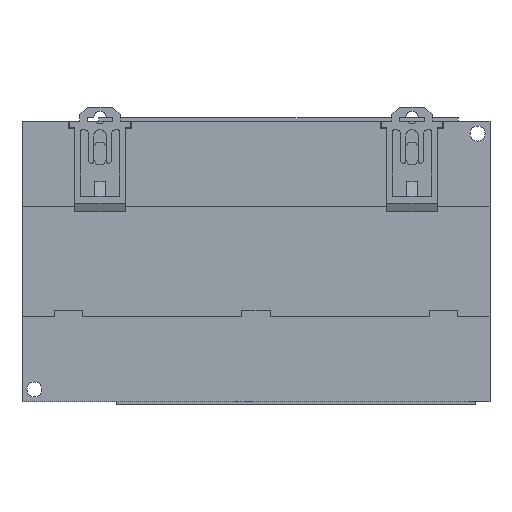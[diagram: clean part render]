
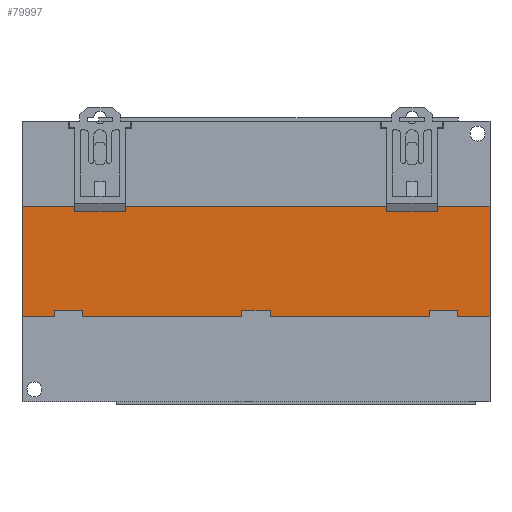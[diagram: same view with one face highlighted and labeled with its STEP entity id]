
A CAD part, front view. The second image highlights one B-rep face of the part: STEP entity #79997.
In plain terms, the highlighted planar face has unit normal (0, -1, 0).
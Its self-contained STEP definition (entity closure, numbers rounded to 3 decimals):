
#69378 = VECTOR ( 'NONE', #69559, 1000. ) ;
#69425 = CARTESIAN_POINT ( 'NONE',  ( 75., -47.3, -17.7 ) ) ;
#69489 = LINE ( 'NONE', #69561, #69378 ) ;
#69559 = DIRECTION ( 'NONE',  ( 0., 0., 1. ) ) ;
#69561 = CARTESIAN_POINT ( 'NONE',  ( 75., -47.3, 17.7 ) ) ;
#69577 = CARTESIAN_POINT ( 'NONE',  ( 75., -47.3, 17.7 ) ) ;
#69936 = CARTESIAN_POINT ( 'NONE',  ( -75., -47.3, -17.7 ) ) ;
#69942 = AXIS2_PLACEMENT_3D ( 'NONE', #69965, #70017, #70015 ) ;
#69965 = CARTESIAN_POINT ( 'NONE',  ( -75., -47.3, 17.7 ) ) ;
#70005 = DIRECTION ( 'NONE',  ( 1., 0., 0. ) ) ;
#70006 = VECTOR ( 'NONE', #70005, 1000. ) ;
#70012 = CARTESIAN_POINT ( 'NONE',  ( -75., -47.3, -17.7 ) ) ;
#70013 = LINE ( 'NONE', #70012, #70123 ) ;
#70015 = DIRECTION ( 'NONE',  ( 0., 0., 1. ) ) ;
#70017 = DIRECTION ( 'NONE',  ( 0., 1., 0. ) ) ;
#70056 = PLANE ( 'NONE',  #69942 ) ;
#70058 = CARTESIAN_POINT ( 'NONE',  ( 40.1, -47.3, 17.7 ) ) ;
#70059 = LINE ( 'NONE', #70058, #70006 ) ;
#70064 = FACE_OUTER_BOUND ( 'NONE', #80021, .T. ) ;
#70101 = CARTESIAN_POINT ( 'NONE',  ( -75., -47.3, 17.7 ) ) ;
#70122 = DIRECTION ( 'NONE',  ( 1., 0., 0. ) ) ;
#70123 = VECTOR ( 'NONE', #70122, 1000. ) ;
#70128 = DIRECTION ( 'NONE',  ( 0., 0., 1. ) ) ;
#70130 = VECTOR ( 'NONE', #70128, 1000. ) ;
#70131 = CARTESIAN_POINT ( 'NONE',  ( -75., -47.3, 17.7 ) ) ;
#70133 = LINE ( 'NONE', #70131, #70130 ) ;
#79883 = VERTEX_POINT ( 'NONE', #69425 ) ;
#79889 = VERTEX_POINT ( 'NONE', #69577 ) ;
#79892 = EDGE_CURVE ( 'NONE', #79883, #79889, #69489, .T. ) ;
#79931 = ORIENTED_EDGE ( 'NONE', *, *, #79892, .T. ) ;
#79997 = ADVANCED_FACE ( 'NONE', ( #70064 ), #70056, .F. ) ;
#79998 = VERTEX_POINT ( 'NONE', #69936 ) ;
#79999 = ORIENTED_EDGE ( 'NONE', *, *, #80000, .F. ) ;
#80000 = EDGE_CURVE ( 'NONE', #80027, #79889, #70059, .T. ) ;
#80006 = EDGE_CURVE ( 'NONE', #79998, #80027, #70133, .T. ) ;
#80008 = ORIENTED_EDGE ( 'NONE', *, *, #80006, .F. ) ;
#80010 = EDGE_CURVE ( 'NONE', #79998, #79883, #70013, .T. ) ;
#80015 = ORIENTED_EDGE ( 'NONE', *, *, #80010, .T. ) ;
#80021 = EDGE_LOOP ( 'NONE', ( #79931, #79999, #80008, #80015 ) ) ;
#80027 = VERTEX_POINT ( 'NONE', #70101 ) ;
